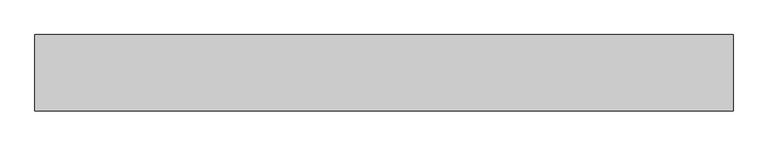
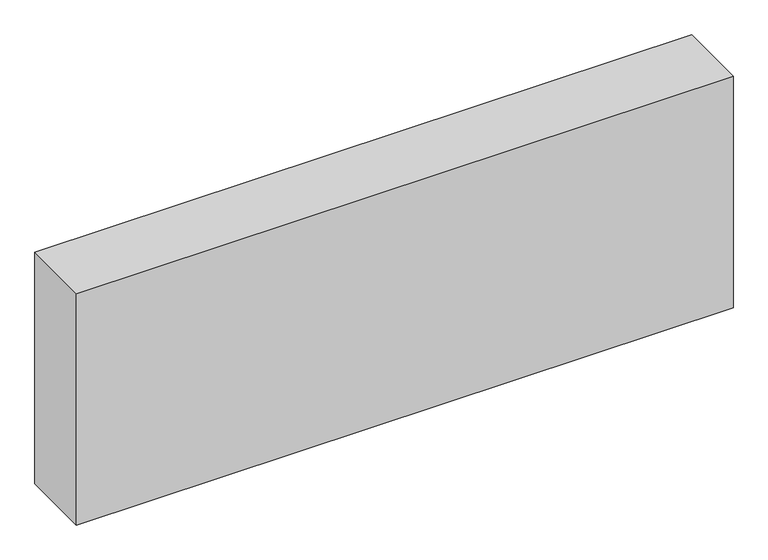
"""IFC4 building model written with IfcOpenShell, lengths in millimetres: beam geometry, 梁下部増打7 : 梁下部増打1."""

from ifc_helpers import new_model, si_unit, frame, origin, place, context, project, spatial, polyline, outline, extrude, source, transform, mapped, element, save


def beam_ea546368(model_context):
    return source(origin(), model_context, "Body", "SweptSolid", [
        extrude(outline(polyline([(6299.1793852, 22884.8000068), (6299.1793852, 23134.8000068), (8580.1793852, 23134.8000068), (8580.1793852, 22884.8000068), (6299.1793852, 22884.8000068)])), frame((0.0, 0.0, -1450.0), z_axis=(0.0, 0.0, 1.0), x_axis=(1.0, 0.0, 0.0)), (0.0, 0.0, 1.0), 850.0),
    ])


if __name__ == "__main__":
    model = new_model("IFC4")
    model_context = context("Model", 3, world=origin())
    ifc_project = project(units=[si_unit("LENGTHUNIT", "METRE", prefix="MILLI")], contexts=[model_context])
    site = spatial("IfcSite", under=ifc_project)
    building = spatial("IfcBuilding", under=site)
    placement = place(None, origin())
    beam_shape = beam_ea546368(model_context)
    element("IfcBeam", 1, ObjectType="梁下部増打7 : 梁下部増打1", at=placement, inside=building, context=model_context, shape_type="MappedRepresentation", body=[
        mapped(beam_shape, transform((0.0, 0.0, 0.0), x_axis=(1.0, 0.0, 0.0), y_axis=(0.0, 1.0, 0.0), z_axis=(0.0, 0.0, 1.0))),
    ])
    save(model, "model.ifc")
